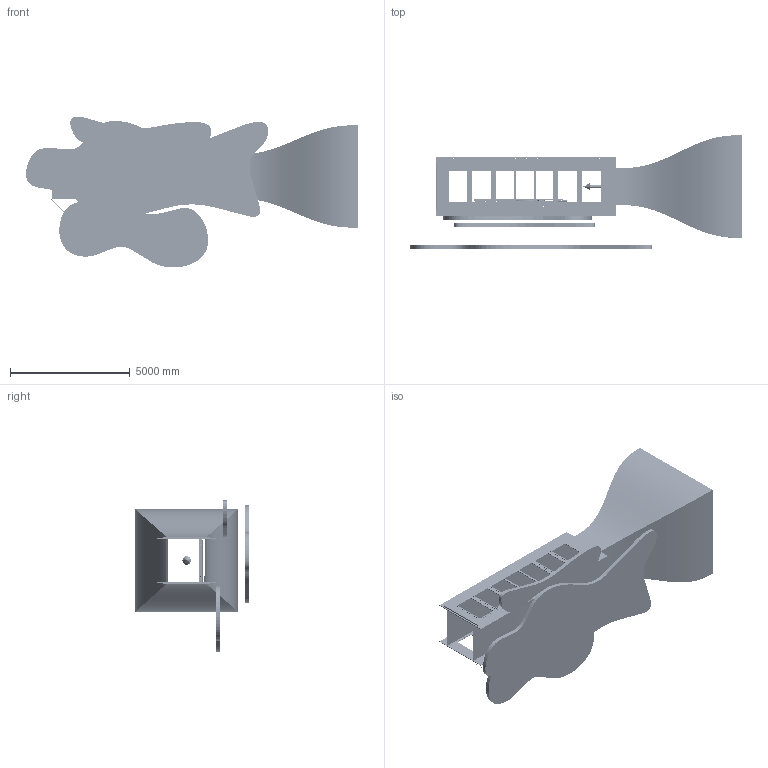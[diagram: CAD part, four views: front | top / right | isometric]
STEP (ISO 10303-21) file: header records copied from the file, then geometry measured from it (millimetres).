
FILE_DESCRIPTION (( 'STEP AP203' ), '1' );
FILE_NAME ('Test section assembly - 2014-04-07.STEP', '2014-04-08T00:36:41', ( 'Owner' ), ( '' ), 'SwSTEP 2.0', 'SolidWorks 2013', '' );
FILE_SCHEMA (( 'CONFIG_CONTROL_DESIGN' ));
Length unit declared in the file: inch
Products named in the file (134): Encoder baseplate; 3161-A track arm, front (measured); Balance 753 yaw table mount; Turntable brake arm bracket; Socket head cap screw, 2-56, 0.3750 L, SS 18-8, 92196A079_92196A079; Balance 753 fixture (Dwg. No. LC-941782); Turntable; Belleville washer, 0.319 ID, 0.492 OD, 8.2 lbs. at 0.0074 in., 1075 steel, 94065K26_94065K26; Test section wall; 5818L-04P; Socket head cap screw, 1l4-20, 1.3750 L, Zinc plated, 90128A301_90128A301; Drive worm; Drive worm gear bearing spacer; Air cylinder pivot brackets, for 1 1l16 bore, zinc plated steel, 6498K72; False floor cover, upstream; Big window assembly; Encoder mount plate; 3161-A track arm, rear (measured); Balance 753 key; Turntable brake arm_Rev. A; Socket head cap screw, 6-32, 0.7500 L, SS 18-8, 92196A151_92196A151; Balance 753 fixture pin; Turntable brake lining; Washer, for 1l4, 0.250 ID, 0.375 OD, 0.016 T, hard fiber, 90089A310_90089A310; Test section downstream flange; Turntable drive assembly; Button head cap screw, 1l4-20, 0.7500 L, SS 18-8, 92949A540_92949A540; Drive worm shaft; Drive worm-wheel shaft; Air cylinder rod clevis, for 1 1l16 bore, 5l16-24, zinc plated steel, 6498K43_6498K43; False floor nose; Small window; Omron EE-SF5 reflective photosensor; 3161-A track clamp, front (measured); Balance 753 and yaw table; RLD01A-SAP-AA00, RC-3, PB-2, MN-4_Pivot Bracket(PB-2 L); Socket head cap screw, 4-40, 0.3750 L, SS 18-8, 92196A108; Balance 753 draw nut (measured); RLD01A-SAP-AA00, RC-3, PB-2, MN-4_Head_Round(SAP1_1-16)-1; 3161-A lucas sting mount key (estimated)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
Assembly tree (191 placements, depth 4):
  Test section assembly - 2014-04-07
    Ground plane assembly_Both disengaged
      Turntable support ring
      Turntable drive ring
      Turntable
      Turntable brake lining
      RLD01A-SAP-AA00, RC-3, PB-2, MN-4_Lucas contracted  x2
        RLD01A-SAP-AA00, RC-3, PB-2, MN-4_Head_Round(SAP1_1-16)-1
        RLD01A-SAP-AA00, RC-3, PB-2, MN-4_Nut(MN-4)
        RLD01A-SAP-AA00, RC-3, PB-2, MN-4_Shaft(Rotating w Flat)
        RLD01A-SAP-AA00, RC-3, PB-2, MN-4_Rod Clevis(RC-3)
      Turntable brake cylinder bracket
      Turntable brake arm bracket
      Turntable brake arm_Rev. A
      RLD01A-SAP-AA00, RC-3, PB-2, MN-4_Pivot Bracket(PB-2 L)  x2
      RLD01A-SAP-AA00, RC-3, PB-2, MN-4_Pivot Bracket(PB-2 R)  x2
      Turntable brake shoe
      3161-A balance and model mount_Balance centered
        3161-A Lucas sting mount spacer (measured)
        3161-A lucas sting mount key (estimated)  x2
        3161-A yaw table plate (measured)
        3161-A wheelbase arm end plate, AB (measured)
        3161-A wheelbase arm end plate, CD (measured)
        3161-A wheelbase arm, left side (measured)
        3161-A wheelbase arm, right side (measured)
        3161-A track arm, front (measured)
        3161-A track arm, rear (measured)
        3161-A track clamp, front (measured)
        3161-A track clamp, rear (measured)
      Turntable frame
      False floor cover supports
      Turntable underpan
      False floor cover, downstream
      False floor cover, upstream
      False floor nose
      Drive frame pivot
      Turntable drive assembly
        Drive plate, bottom
        Drive plate, top
        Drive wheel hub
        Drive worm gear
        Drive worm-wheel connector
        Drive worm gear bearing spacer
        Drive worm-wheel shaft
        Drive wheel
        Drive worm bearing holder  x2
        Drive step motor bracket
        Drive worm thrust bearing  x2
        Drive worm flange bearing  x2
        Drive worm spacer  x2
        Drive worm shaft collar  x2
        Drive worm
        Drive worm shaft
        Drive plate standoff  x4
        Drive actuator tab column 2
        Drive actuator tab column 1
        Drive actuator tab
        Drive roller holder
        Drive roller (McMaster 6461K12)
        5818L-04P
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Bounding box: 13852.51 x 4730.71 x 6300.42 mm (x, y, z)
Volume: 8565214605.8 mm3; surface area: 455341192.2 mm2
Topology: 306 solids, 314 shells, 18277 faces, 46328 edges, 28841 vertices
Faces by surface type: cylinder 8555, plane 5323, cone 3628, bspline 544, torus 115, sphere 112
Entity records: 403846 total; most frequent: CARTESIAN_POINT 119783, ORIENTED_EDGE 55952, DIRECTION 54861, EDGE_CURVE 27976, AXIS2_PLACEMENT_3D 19492, VERTEX_POINT 17925, LINE 15877, VECTOR 15877
